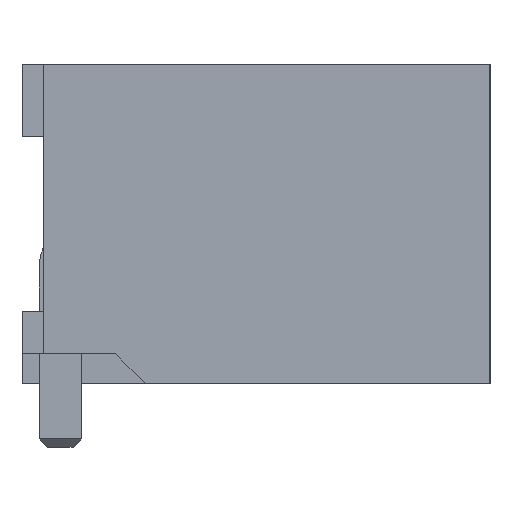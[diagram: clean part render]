
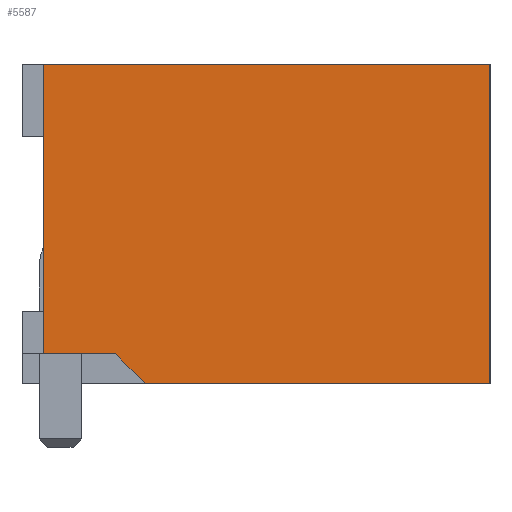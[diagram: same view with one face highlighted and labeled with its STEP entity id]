
A CAD part, left-side view. The second image highlights one B-rep face of the part: STEP entity #5587.
In plain terms, the highlighted planar face has unit normal (-1, 0, 0).
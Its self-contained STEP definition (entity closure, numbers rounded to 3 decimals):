
#41=DIRECTION('',(0.,-1.,0.));
#42=VECTOR('',#41,8.1);
#43=CARTESIAN_POINT('',(2.8,8.137,-7.5));
#44=LINE('',#43,#42);
#1446=DIRECTION('',(0.,0.707,0.707));
#1447=VECTOR('',#1446,0.99);
#1448=CARTESIAN_POINT('',(2.8,8.137,-7.5));
#1449=LINE('',#1448,#1447);
#1450=DIRECTION('',(0.,1.,0.));
#1451=VECTOR('',#1450,1.7);
#1452=CARTESIAN_POINT('',(2.8,8.837,-6.8));
#1453=LINE('',#1452,#1451);
#1454=DIRECTION('',(0.,0.,1.));
#1455=VECTOR('',#1454,6.8);
#1456=CARTESIAN_POINT('',(2.8,10.537,-6.8));
#1457=LINE('',#1456,#1455);
#1458=DIRECTION('',(0.,-1.,0.));
#1459=VECTOR('',#1458,10.5);
#1460=CARTESIAN_POINT('',(2.8,10.537,0.));
#1461=LINE('',#1460,#1459);
#1462=DIRECTION('',(0.,0.,-1.));
#1463=VECTOR('',#1462,7.5);
#1464=CARTESIAN_POINT('',(2.8,0.037,0.));
#1465=LINE('',#1464,#1463);
#2692=CARTESIAN_POINT('',(2.8,0.037,-7.5));
#2694=VERTEX_POINT('',#2692);
#2714=CARTESIAN_POINT('',(2.8,8.137,-7.5));
#2715=VERTEX_POINT('',#2714);
#2748=CARTESIAN_POINT('',(2.8,0.037,0.));
#2749=VERTEX_POINT('',#2748);
#3356=CARTESIAN_POINT('',(2.8,10.537,-6.8));
#3357=CARTESIAN_POINT('',(2.8,10.537,0.));
#3358=VERTEX_POINT('',#3356);
#3359=VERTEX_POINT('',#3357);
#3494=CARTESIAN_POINT('',(2.8,8.837,-6.8));
#3495=VERTEX_POINT('',#3494);
#5573=CARTESIAN_POINT('',(2.8,0.037,-14.345));
#5574=DIRECTION('',(1.,0.,0.));
#5575=DIRECTION('',(0.,0.,1.));
#5576=AXIS2_PLACEMENT_3D('',#5573,#5574,#5575);
#5577=PLANE('',#5576);
#5579=ORIENTED_EDGE('',*,*,#5578,.T.);
#5580=ORIENTED_EDGE('',*,*,#4782,.T.);
#5581=ORIENTED_EDGE('',*,*,#4338,.T.);
#5582=ORIENTED_EDGE('',*,*,#4229,.T.);
#5583=ORIENTED_EDGE('',*,*,#3570,.T.);
#5584=ORIENTED_EDGE('',*,*,#3527,.F.);
#5585=EDGE_LOOP('',(#5579,#5580,#5581,#5582,#5583,#5584));
#5586=FACE_OUTER_BOUND('',#5585,.F.);
#5587=ADVANCED_FACE('',(#5586),#5577,.F.);
#3527=EDGE_CURVE('',#2715,#2694,#44,.T.);
#3570=EDGE_CURVE('',#2749,#2694,#1465,.T.);
#4229=EDGE_CURVE('',#3359,#2749,#1461,.T.);
#4338=EDGE_CURVE('',#3358,#3359,#1457,.T.);
#4782=EDGE_CURVE('',#3495,#3358,#1453,.T.);
#5578=EDGE_CURVE('',#2715,#3495,#1449,.T.);
